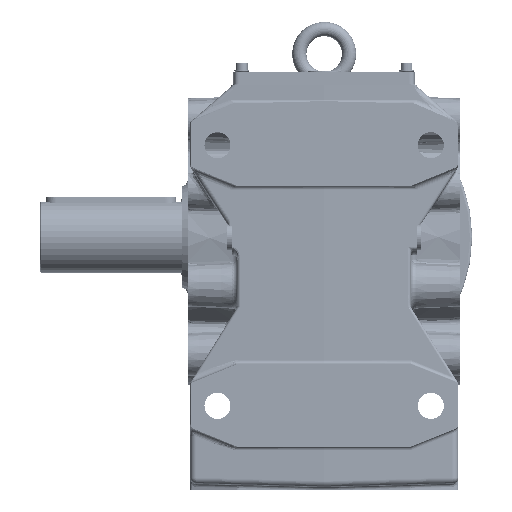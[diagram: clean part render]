
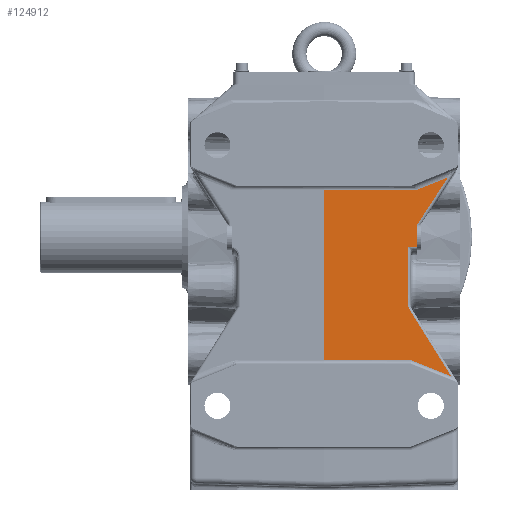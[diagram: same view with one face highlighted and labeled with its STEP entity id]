
A CAD part, left-side view. The second image highlights one B-rep face of the part: STEP entity #124912.
In plain terms, the highlighted planar face has unit normal (-1, -0.026, 0).
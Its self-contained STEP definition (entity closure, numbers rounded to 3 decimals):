
#64484=CARTESIAN_POINT('',(-128.064,-70.565,-46.049));
#64485=VERTEX_POINT('',#64484);
#64510=CARTESIAN_POINT('',(-128.064,-70.565,-8.048));
#64511=VERTEX_POINT('',#64510);
#64521=CARTESIAN_POINT('',(-128.064,-70.565,-8.048));
#64522=DIRECTION('',(0.0,0.0,-1.0));
#64523=VECTOR('',#64522,38.001);
#64524=LINE('',#64521,#64523);
#64525=EDGE_CURVE('',#64511,#64485,#64524,.T.);
#64567=CARTESIAN_POINT('',(-127.177,-104.418,50.274));
#64568=VERTEX_POINT('',#64567);
#64576=CARTESIAN_POINT('',(-127.854,-78.565,10.465));
#64577=VERTEX_POINT('',#64576);
#64578=CARTESIAN_POINT('',(-127.177,-104.418,50.274));
#64579=DIRECTION('',(-0.014,0.545,-0.839));
#64580=VECTOR('',#64579,47.472);
#64581=LINE('',#64578,#64580);
#64582=EDGE_CURVE('',#64568,#64577,#64581,.T.);
#64923=CARTESIAN_POINT('',(-127.85,-78.733,40.));
#64924=VERTEX_POINT('',#64923);
#64938=CARTESIAN_POINT('',(-127.85,-78.733,40.));
#64939=DIRECTION('',(0.024,-0.928,0.371));
#64940=VECTOR('',#64939,27.672);
#64941=LINE('',#64938,#64940);
#64942=EDGE_CURVE('',#64924,#64568,#64941,.T.);
#71067=CARTESIAN_POINT('',(-129.912,0.,40.));
#71068=VERTEX_POINT('',#71067);
#71076=CARTESIAN_POINT('',(-129.912,0.,40.));
#71077=DIRECTION('',(0.026,-1.,0.));
#71078=VECTOR('',#71077,78.76);
#71079=LINE('',#71076,#71078);
#71080=EDGE_CURVE('',#71068,#64924,#71079,.T.);
#84909=CARTESIAN_POINT('',(-127.987,-73.499,-104.));
#84910=VERTEX_POINT('',#84909);
#84918=CARTESIAN_POINT('',(-129.912,0.,-104.));
#84919=VERTEX_POINT('',#84918);
#84920=CARTESIAN_POINT('',(-127.987,-73.499,-104.));
#84921=DIRECTION('',(-0.026,1.,0.));
#84922=VECTOR('',#84921,73.524);
#84923=LINE('',#84920,#84922);
#84924=EDGE_CURVE('',#84910,#84919,#84923,.T.);
#85083=CARTESIAN_POINT('',(-127.103,-107.26,-117.504));
#85084=VERTEX_POINT('',#85083);
#85092=CARTESIAN_POINT('',(-127.103,-107.26,-117.504));
#85093=DIRECTION('',(-0.024,0.928,0.371));
#85094=VECTOR('',#85093,36.372);
#85095=LINE('',#85092,#85094);
#85096=EDGE_CURVE('',#85084,#84910,#85095,.T.);
#85280=CARTESIAN_POINT('',(-128.024,-72.087,-61.215));
#85281=VERTEX_POINT('',#85280);
#85289=CARTESIAN_POINT('',(-128.024,-72.087,-61.215));
#85290=DIRECTION('',(0.014,-0.53,-0.848));
#85291=VECTOR('',#85290,66.381);
#85292=LINE('',#85289,#85291);
#85293=EDGE_CURVE('',#85281,#85084,#85292,.T.);
#85366=CARTESIAN_POINT('',(-128.064,-70.565,-46.049));
#85367=CARTESIAN_POINT('',(-128.064,-70.566,-46.058));
#85368=CARTESIAN_POINT('',(-128.064,-70.566,-46.068));
#85369=CARTESIAN_POINT('',(-128.063,-70.588,-47.1));
#85370=CARTESIAN_POINT('',(-128.062,-70.632,-49.146));
#85371=CARTESIAN_POINT('',(-128.06,-70.692,-51.703));
#85372=CARTESIAN_POINT('',(-128.059,-70.752,-53.749));
#85373=CARTESIAN_POINT('',(-128.057,-70.805,-55.283));
#85374=CARTESIAN_POINT('',(-128.055,-70.883,-56.815));
#85375=CARTESIAN_POINT('',(-128.052,-71.009,-58.347));
#85376=CARTESIAN_POINT('',(-128.043,-71.364,-59.847));
#85377=CARTESIAN_POINT('',(-128.031,-71.815,-60.781));
#85378=CARTESIAN_POINT('',(-128.024,-72.087,-61.215));
#85379=B_SPLINE_CURVE_WITH_KNOTS('',3,(#85366,#85367,#85368,#85369,#85370,#85371,#85372,#85373,#85374,#85375,#85376,#85377,#85378),.UNSPECIFIED.,.F.,.U.,(4,2,1,1,1,1,1,1,1,4),(-0.003,0.0,0.307,0.614,0.767,0.921,1.074,1.228,1.381,1.535),.UNSPECIFIED.);
#85380=EDGE_CURVE('',#64485,#85281,#85379,.T.);
#124843=CARTESIAN_POINT('',(-127.854,-78.565,9.191));
#124844=VERTEX_POINT('',#124843);
#124857=CARTESIAN_POINT('',(-127.854,-78.565,10.465));
#124858=DIRECTION('',(0.0,0.0,-1.0));
#124859=VECTOR('',#124858,1.274);
#124860=LINE('',#124857,#124859);
#124861=EDGE_CURVE('',#64577,#124844,#124860,.T.);
#124866=CARTESIAN_POINT('',(-129.911,-0.025,-208.));
#124867=DIRECTION('',(-1.,-0.026,0.));
#124868=DIRECTION('',(0.0,0.0,1.0));
#124869=AXIS2_PLACEMENT_3D('',#124866,#124867,#124868);
#124870=PLANE('',#124869);
#124871=CARTESIAN_POINT('',(-127.869,-78.,-8.274));
#124872=VERTEX_POINT('',#124871);
#124873=CARTESIAN_POINT('',(-127.869,-78.,9.172));
#124874=VERTEX_POINT('',#124873);
#124875=CARTESIAN_POINT('',(-127.869,-78.,-8.274));
#124876=DIRECTION('',(0.0,0.0,1.0));
#124877=VECTOR('',#124876,17.446);
#124878=LINE('',#124875,#124877);
#124879=EDGE_CURVE('',#124872,#124874,#124878,.T.);
#124880=ORIENTED_EDGE('',*,*,#124879,.T.);
#124881=CARTESIAN_POINT('',(-116.,-531.262,0.));
#124882=DIRECTION('',(1.,0.026,0.));
#124883=DIRECTION('',(-0.026,1.,0.));
#124884=AXIS2_PLACEMENT_3D('',#124881,#124882,#124883);
#124885=ELLIPSE('',#124884,573.023,15.);
#124886=EDGE_CURVE('',#124874,#124844,#124885,.T.);
#124887=ORIENTED_EDGE('',*,*,#124886,.T.);
#124888=ORIENTED_EDGE('',*,*,#124861,.F.);
#124889=ORIENTED_EDGE('',*,*,#64582,.F.);
#124890=ORIENTED_EDGE('',*,*,#64942,.F.);
#124891=ORIENTED_EDGE('',*,*,#71080,.F.);
#124892=CARTESIAN_POINT('',(-129.912,0.,40.));
#124893=DIRECTION('',(0.0,0.0,-1.0));
#124894=VECTOR('',#124893,144.0);
#124895=LINE('',#124892,#124894);
#124896=EDGE_CURVE('',#71068,#84919,#124895,.T.);
#124897=ORIENTED_EDGE('',*,*,#124896,.T.);
#124898=ORIENTED_EDGE('',*,*,#84924,.F.);
#124899=ORIENTED_EDGE('',*,*,#85096,.F.);
#124900=ORIENTED_EDGE('',*,*,#85293,.F.);
#124901=ORIENTED_EDGE('',*,*,#85380,.F.);
#124902=ORIENTED_EDGE('',*,*,#64525,.F.);
#124903=CARTESIAN_POINT('',(-118.499,-435.823,0.));
#124904=DIRECTION('',(1.,0.026,0.));
#124905=DIRECTION('',(-0.026,1.,0.));
#124906=AXIS2_PLACEMENT_3D('',#124903,#124904,#124905);
#124907=ELLIPSE('',#124906,477.519,12.5);
#124908=EDGE_CURVE('',#124872,#64511,#124907,.T.);
#124909=ORIENTED_EDGE('',*,*,#124908,.F.);
#124910=EDGE_LOOP('',(#124880,#124887,#124888,#124889,#124890,#124891,#124897,#124898,#124899,#124900,#124901,#124902,#124909));
#124911=FACE_OUTER_BOUND('',#124910,.T.);
#124912=ADVANCED_FACE('',(#124911),#124870,.T.);
